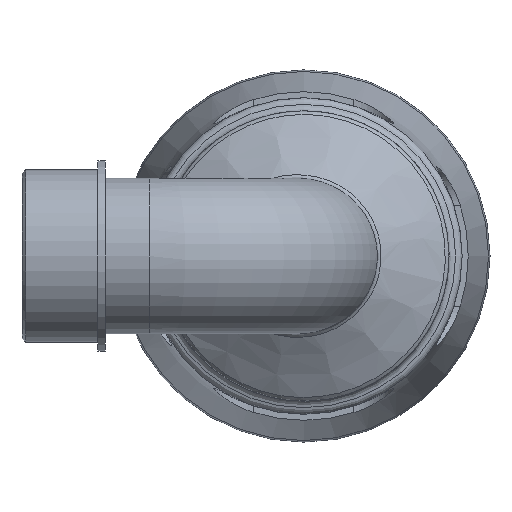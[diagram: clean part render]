
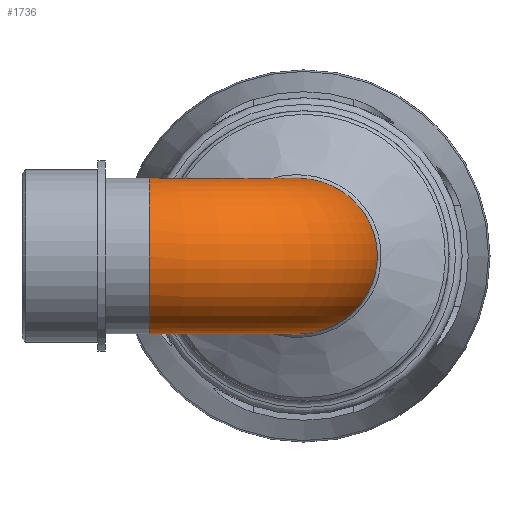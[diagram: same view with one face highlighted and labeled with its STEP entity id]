
A CAD part, left-side view. The second image highlights one B-rep face of the part: STEP entity #1736.
In plain terms, the highlighted toroidal (fillet/blend) face has major radius 42.752 mm and minor radius 21.511 mm.
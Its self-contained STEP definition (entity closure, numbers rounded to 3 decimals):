
#80=TOROIDAL_SURFACE('',#1855,42.753,21.511);
#90=FACE_BOUND('',#436,.T.);
#319=FACE_OUTER_BOUND('',#435,.T.);
#435=EDGE_LOOP('',(#1149));
#436=EDGE_LOOP('',(#1150));
#557=B_SPLINE_CURVE_WITH_KNOTS('',3,(#2627,#2628,#2629,#2630,#2631,#2632,
#2633,#2634,#2635,#2636,#2637,#2638,#2639,#2640,#2641,#2642,#2643,#2644,
#2645),.UNSPECIFIED.,.T.,.F.,(4,1,1,1,1,1,1,1,1,1,1,1,1,1,1,1,4),(-3.142,
-2.693,-2.244,-1.795,-1.346,
-0.898,-0.449,-0.15,0.15,
0.449,0.748,1.346,1.795,2.244,
2.693,2.917,3.142),.UNSPECIFIED.);
#631=CIRCLE('',#1850,21.511);
#721=VERTEX_POINT('',#2625);
#728=VERTEX_POINT('',#2888);
#882=EDGE_CURVE('',#721,#721,#557,.T.);
#892=EDGE_CURVE('',#728,#728,#631,.T.);
#1149=ORIENTED_EDGE('',*,*,#882,.F.);
#1150=ORIENTED_EDGE('',*,*,#892,.T.);
#1736=ADVANCED_FACE('',(#319,#90),#80,.T.);
#1850=AXIS2_PLACEMENT_3D('',#2889,#2066,#2067);
#1855=AXIS2_PLACEMENT_3D('',#2897,#2076,#2077);
#2066=DIRECTION('center_axis',(0.,-1.,0.));
#2067=DIRECTION('ref_axis',(-1.,0.,0.));
#2076=DIRECTION('center_axis',(0.,0.,1.));
#2077=DIRECTION('ref_axis',(1.,0.,0.));
#2625=CARTESIAN_POINT('',(30.01,25.758,0.));
#2627=CARTESIAN_POINT('Ctrl Pts',(30.011,25.762,0.002));
#2628=CARTESIAN_POINT('Ctrl Pts',(30.01,25.758,3.302));
#2629=CARTESIAN_POINT('Ctrl Pts',(29.962,23.79,9.868));
#2630=CARTESIAN_POINT('Ctrl Pts',(29.975,16.709,17.356));
#2631=CARTESIAN_POINT('Ctrl Pts',(30.118,7.386,21.58));
#2632=CARTESIAN_POINT('Ctrl Pts',(30.273,-2.828,21.781));
#2633=CARTESIAN_POINT('Ctrl Pts',(30.393,-12.162,17.685));
#2634=CARTESIAN_POINT('Ctrl Pts',(30.456,-18.013,10.771));
#2635=CARTESIAN_POINT('Ctrl Pts',(30.48,-20.413,3.345));
#2636=CARTESIAN_POINT('Ctrl Pts',(30.48,-20.415,-3.346));
#2637=CARTESIAN_POINT('Ctrl Pts',(30.459,-18.35,-9.702));
#2638=CARTESIAN_POINT('Ctrl Pts',(30.404,-13.141,-16.964));
#2639=CARTESIAN_POINT('Ctrl Pts',(30.291,-3.966,-21.818));
#2640=CARTESIAN_POINT('Ctrl Pts',(30.118,7.385,-21.572));
#2641=CARTESIAN_POINT('Ctrl Pts',(29.976,16.712,-17.366));
#2642=CARTESIAN_POINT('Ctrl Pts',(29.963,22.6,-11.105));
#2643=CARTESIAN_POINT('Ctrl Pts',(30.,25.277,-4.957));
#2644=CARTESIAN_POINT('Ctrl Pts',(30.011,25.763,-1.648));
#2645=CARTESIAN_POINT('Ctrl Pts',(30.011,25.762,0.002));
#2888=CARTESIAN_POINT('',(21.511,42.753,0.));
#2889=CARTESIAN_POINT('Origin',(0.,42.753,0.));
#2897=CARTESIAN_POINT('Origin',(42.753,42.753,0.));
